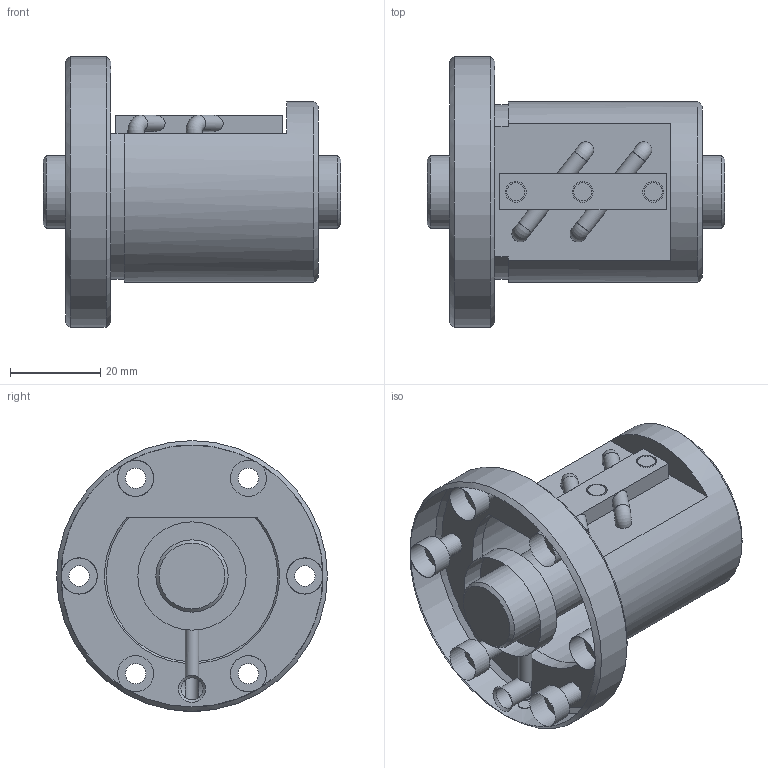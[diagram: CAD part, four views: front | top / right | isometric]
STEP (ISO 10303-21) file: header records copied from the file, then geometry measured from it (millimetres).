
FILE_DESCRIPTION(/* description */ ('STEP AP203'),/* implementation_level */ '2;1');
FILE_NAME(/* name */ 'BIF1605V-5RRG0+66LC0_000',/* time_stamp */ '2024-07-15T08:16:37+02:00',/* author */ ('License CC BY-ND 4.0'),/* organization */ ('CADENAS'),/* preprocessor_version */ 'ST-DEVELOPER v19.3',/* originating_system */ 'PARTsolutions',/* authorisation */ ' ');
FILE_SCHEMA (('CONFIG_CONTROL_DESIGN'));
Length unit declared in the file: millimetre
Products named in the file (3): BIF1605V-5RRG0+66LC0_000; BIF1605V-5RR000 Shaft; BIF1605V-5RR Nut
Assembly tree (2 placements, depth 2):
  BIF1605V-5RRG0+66LC0_000
    BIF1605V-5RR000 Shaft
    BIF1605V-5RR Nut
Bounding box: 66 x 60 x 60 mm (x, y, z)
Volume: 78734.7 mm3; surface area: 21599.9 mm2
Topology: 2 solids, 2 shells, 89 faces, 208 edges, 130 vertices
Faces by surface type: plane 41, cylinder 36, cone 8, torus 4
Full cylindrical faces by diameter (mm): 3 x2, 3.6 x4, 4 x3, 4.5 x6, 4.6 x3, 4.917 x1, 8 x6, 16 x2, 24 x2, 40 x1, 60 x1
Entity records: 2395 total; most frequent: CARTESIAN_POINT 440, DIRECTION 432, ORIENTED_EDGE 302, AXIS2_PLACEMENT_3D 199, EDGE_LOOP 160, FACE_BOUND 160, EDGE_CURVE 151, VERTEX_POINT 113
